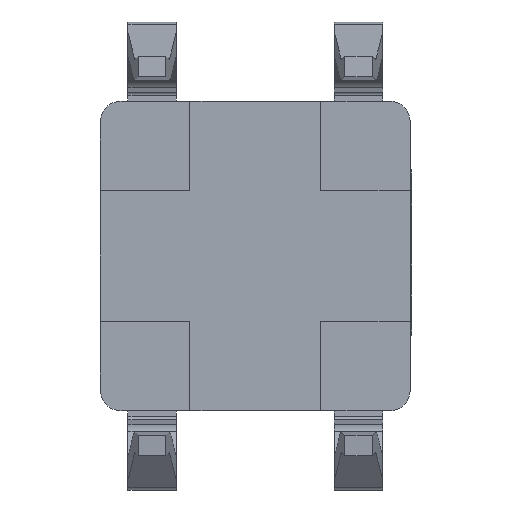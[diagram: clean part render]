
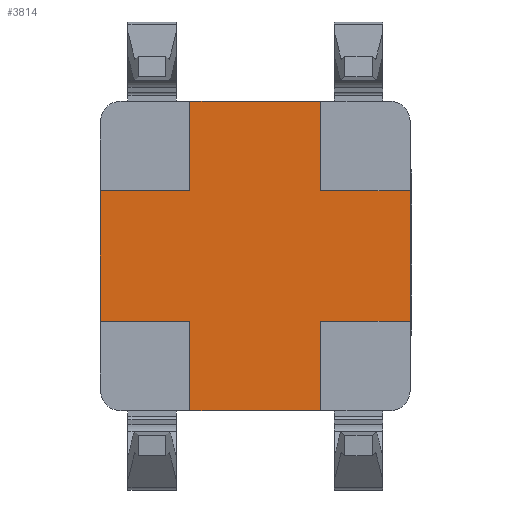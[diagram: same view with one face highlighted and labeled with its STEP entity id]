
A CAD part, front view. The second image highlights one B-rep face of the part: STEP entity #3814.
In plain terms, the highlighted planar face has unit normal (0, -1, 0).
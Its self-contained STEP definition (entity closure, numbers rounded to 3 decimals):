
#339=DIRECTION('',(0.,0.,1.));
#340=VECTOR('',#339,1.9);
#341=CARTESIAN_POINT('',(-2.25,0.2,-0.95));
#342=LINE('',#341,#340);
#343=DIRECTION('',(1.,0.,0.));
#344=VECTOR('',#343,1.9);
#345=CARTESIAN_POINT('',(-0.95,0.2,2.25));
#346=LINE('',#345,#344);
#347=DIRECTION('',(0.,0.,-1.));
#348=VECTOR('',#347,1.9);
#349=CARTESIAN_POINT('',(2.25,0.2,0.95));
#350=LINE('',#349,#348);
#351=DIRECTION('',(-1.,0.,0.));
#352=VECTOR('',#351,1.9);
#353=CARTESIAN_POINT('',(0.95,0.2,-2.25));
#354=LINE('',#353,#352);
#355=DIRECTION('',(0.,0.,1.));
#356=VECTOR('',#355,1.3);
#357=CARTESIAN_POINT('',(-0.95,0.2,-2.25));
#358=LINE('',#357,#356);
#359=DIRECTION('',(-1.,0.,0.));
#360=VECTOR('',#359,1.3);
#361=CARTESIAN_POINT('',(-0.95,0.2,-0.95));
#362=LINE('',#361,#360);
#363=DIRECTION('',(-1.,0.,0.));
#364=VECTOR('',#363,1.3);
#365=CARTESIAN_POINT('',(-0.95,0.2,0.95));
#366=LINE('',#365,#364);
#396=DIRECTION('',(0.,0.,-1.));
#397=VECTOR('',#396,1.3);
#398=CARTESIAN_POINT('',(-0.95,0.2,2.25));
#399=LINE('',#398,#397);
#404=DIRECTION('',(0.,0.,1.));
#405=VECTOR('',#404,1.3);
#406=CARTESIAN_POINT('',(0.95,0.2,0.95));
#407=LINE('',#406,#405);
#437=DIRECTION('',(-1.,0.,0.));
#438=VECTOR('',#437,1.3);
#439=CARTESIAN_POINT('',(2.25,0.2,0.95));
#440=LINE('',#439,#438);
#445=DIRECTION('',(1.,0.,0.));
#446=VECTOR('',#445,1.3);
#447=CARTESIAN_POINT('',(0.95,0.2,-0.95));
#448=LINE('',#447,#446);
#478=DIRECTION('',(0.,0.,1.));
#479=VECTOR('',#478,1.3);
#480=CARTESIAN_POINT('',(0.95,0.2,-2.25));
#481=LINE('',#480,#479);
#2653=CARTESIAN_POINT('',(-2.25,0.2,-0.95));
#2654=CARTESIAN_POINT('',(-2.25,0.2,0.95));
#2655=VERTEX_POINT('',#2653);
#2656=VERTEX_POINT('',#2654);
#2665=CARTESIAN_POINT('',(-0.95,0.2,2.25));
#2666=CARTESIAN_POINT('',(0.95,0.2,2.25));
#2667=VERTEX_POINT('',#2665);
#2668=VERTEX_POINT('',#2666);
#2689=CARTESIAN_POINT('',(2.25,0.2,0.95));
#2690=CARTESIAN_POINT('',(2.25,0.2,-0.95));
#2691=VERTEX_POINT('',#2689);
#2692=VERTEX_POINT('',#2690);
#2697=CARTESIAN_POINT('',(0.95,0.2,-2.25));
#2698=CARTESIAN_POINT('',(-0.95,0.2,-2.25));
#2699=VERTEX_POINT('',#2697);
#2700=VERTEX_POINT('',#2698);
#2715=CARTESIAN_POINT('',(-0.95,0.2,-0.95));
#2716=VERTEX_POINT('',#2715);
#2717=CARTESIAN_POINT('',(-0.95,0.2,0.95));
#2718=VERTEX_POINT('',#2717);
#2719=CARTESIAN_POINT('',(0.95,0.2,0.95));
#2720=VERTEX_POINT('',#2719);
#2721=CARTESIAN_POINT('',(0.95,0.2,-0.95));
#2722=VERTEX_POINT('',#2721);
#3789=CARTESIAN_POINT('',(0.,0.2,0.));
#3790=DIRECTION('',(0.,1.,0.));
#3791=DIRECTION('',(1.,0.,0.));
#3792=AXIS2_PLACEMENT_3D('',#3789,#3790,#3791);
#3793=PLANE('',#3792);
#3794=ORIENTED_EDGE('',*,*,#3489,.T.);
#3796=ORIENTED_EDGE('',*,*,#3795,.F.);
#3798=ORIENTED_EDGE('',*,*,#3797,.F.);
#3799=ORIENTED_EDGE('',*,*,#3524,.T.);
#3801=ORIENTED_EDGE('',*,*,#3800,.F.);
#3803=ORIENTED_EDGE('',*,*,#3802,.F.);
#3804=ORIENTED_EDGE('',*,*,#3580,.T.);
#3806=ORIENTED_EDGE('',*,*,#3805,.F.);
#3808=ORIENTED_EDGE('',*,*,#3807,.F.);
#3809=ORIENTED_EDGE('',*,*,#3732,.T.);
#3810=ORIENTED_EDGE('',*,*,#3770,.T.);
#3811=ORIENTED_EDGE('',*,*,#3783,.T.);
#3812=EDGE_LOOP('',(#3794,#3796,#3798,#3799,#3801,#3803,#3804,#3806,#3808,#3809,
#3810,#3811));
#3813=FACE_OUTER_BOUND('',#3812,.F.);
#3489=EDGE_CURVE('',#2655,#2656,#342,.T.);
#3524=EDGE_CURVE('',#2667,#2668,#346,.T.);
#3580=EDGE_CURVE('',#2691,#2692,#350,.T.);
#3732=EDGE_CURVE('',#2699,#2700,#354,.T.);
#3770=EDGE_CURVE('',#2700,#2716,#358,.T.);
#3783=EDGE_CURVE('',#2716,#2655,#362,.T.);
#3795=EDGE_CURVE('',#2718,#2656,#366,.T.);
#3797=EDGE_CURVE('',#2667,#2718,#399,.T.);
#3800=EDGE_CURVE('',#2720,#2668,#407,.T.);
#3802=EDGE_CURVE('',#2691,#2720,#440,.T.);
#3805=EDGE_CURVE('',#2722,#2692,#448,.T.);
#3807=EDGE_CURVE('',#2699,#2722,#481,.T.);
#3814=ADVANCED_FACE('',(#3813),#3793,.F.);
